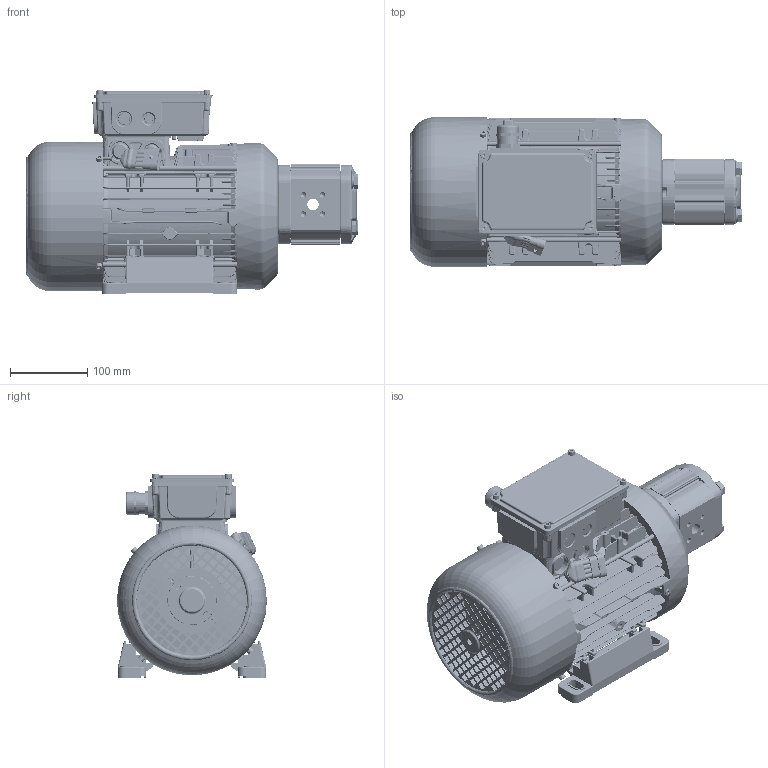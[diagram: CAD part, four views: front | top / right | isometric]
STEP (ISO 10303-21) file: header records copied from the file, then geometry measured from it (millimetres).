
FILE_DESCRIPTION(/* description */ (''),/* implementation_level */ '2;1');
FILE_NAME(/* name */ 'Z:\SITO WEB 2023\Elettropompe\Elettropompe AC\D.152 mm\AMP152.GR2.stp',/* time_stamp */ '2023-09-18T16:22:57+02:00',/* author */ ('cad3'),/* organization */ (''),/* preprocessor_version */ 'ST-DEVELOPER v18.1',/* originating_system */ 'Autodesk Inventor 2022',/* authorisation */ '');
FILE_SCHEMA (('AUTOMOTIVE_DESIGN { 1 0 10303 214 3 1 1 }'));
Length unit declared in the file: millimetre
Products named in the file (1): AMP152.GR2
Bounding box: 429.2 x 193.57 x 263.2 mm (x, y, z)
Volume: 2621256.6 mm3; surface area: 1068143.2 mm2
Topology: 6 solids, 58 shells, 12449 faces, 32578 edges, 20373 vertices
Faces by surface type: plane 6566, cylinder 2565, bspline 1734, cone 826, torus 638, sphere 120
Full cylindrical faces by diameter (mm): 2 x6, 3 x6, 3.2 x4, 3.4 x1, 4 x13, 4.134 x11, 4.2 x4, 4.917 x12, 5 x30, 5.2 x8, 5.3 x8, 5.5 x9, 6 x19, 6.3 x2, 6.4 x4, 6.5 x7, 6.8 x4, 7 x4, 7.8 x9, 8 x4, 8.376 x4, 8.4 x3, 8.5 x15, 8.6 x2, 8.75 x3, 9 x2, 10 x12, 10.5 x14, 14 x8, 14.63 x2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
Entity records: 540121 total; most frequent: CARTESIAN_POINT 227235, ORIENTED_EDGE 64792, DIRECTION 60997, EDGE_CURVE 32396, AXIS2_PLACEMENT_3D 21656, VERTEX_POINT 20391, LINE 17685, VECTOR 17685
